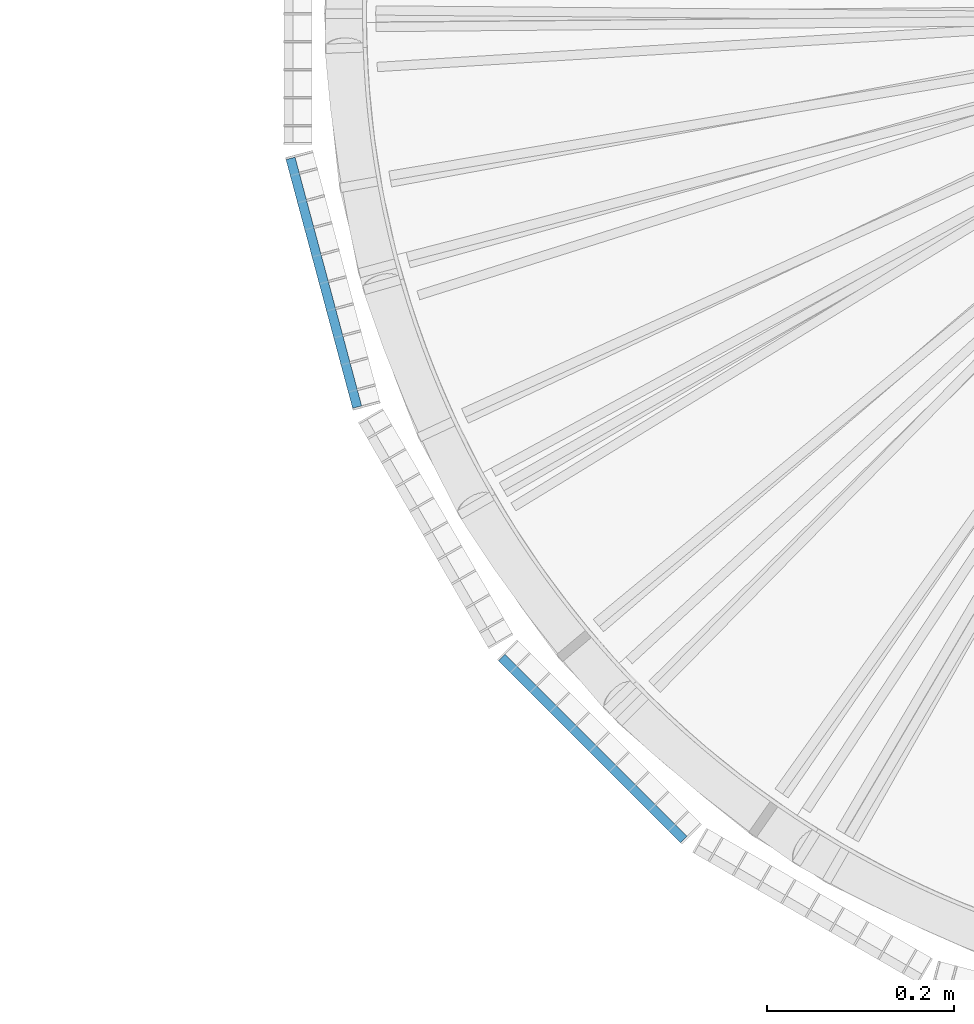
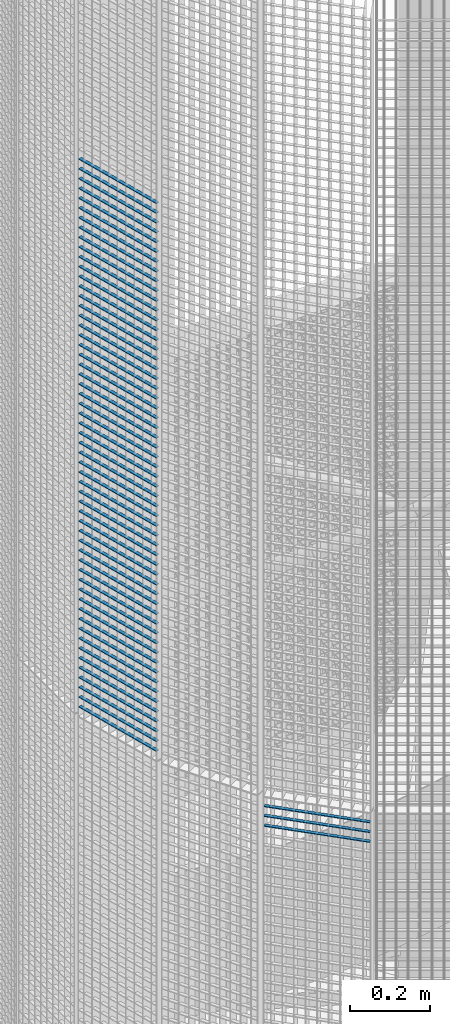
# One storey, part 107 of 1148: 60 beams, 2 elements without a shape of their own.
"""IFC2X3 building model written with IfcOpenShell, lengths in millimetres."""

from ifc_helpers import new_model, si_unit, frame, origin_with_axes, origin_2d_with_axis, place, context, subcontext, project, spatial, rectangle, extrude, material, type_object, element, aggregate, save


model = new_model("IFC2X3")

# Units and contexts
model_context = context("Model", 3, precision=1e-05, world=origin_with_axes())
body_context = subcontext(model_context, "Body", "Model", "MODEL_VIEW")
ifc_project = project(units=[si_unit("LENGTHUNIT", "METRE", prefix="MILLI"), si_unit("AREAUNIT", "SQUARE_METRE"), si_unit("VOLUMEUNIT", "CUBIC_METRE"), si_unit("MASSUNIT", "GRAM", prefix="KILO"), si_unit("TIMEUNIT", "SECOND"), si_unit("PLANEANGLEUNIT", "RADIAN"), si_unit("SOLIDANGLEUNIT", "STERADIAN"), si_unit("THERMODYNAMICTEMPERATUREUNIT", "DEGREE_CELSIUS"), si_unit("LUMINOUSINTENSITYUNIT", "LUMEN")], contexts=[model_context])

# Site, building, storey
site_placement = place(None, origin_with_axes())
site = spatial("IfcSite", under=ifc_project, at=site_placement, Name="Undefined", CompositionType="ELEMENT")
building_placement = place(site_placement, origin_with_axes())
building = spatial("IfcBuilding", under=site, at=building_placement, Name="Undefined", CompositionType="ELEMENT")
storey_placement = place(building_placement, origin_with_axes())
storey = spatial("IfcBuildingStorey", under=building, at=storey_placement, Name="Undefined", CompositionType="ELEMENT", Elevation=0.0)

# Assembly, beams
assembly_1_placement = place(storey_placement, origin_with_axes())
assembly_1 = element("IfcElementAssembly", 1, at=assembly_1_placement, inside=storey, Name="BORDURE", AssemblyPlace="NOTDEFINED", PredefinedType="NOTDEFINED")
ifc_material = material(Name="STEEL/S235JR")
beam_type = type_object("IfcBeamType", Name="PL2*10", PredefinedType="NOTDEFINED")
beam_1_placement = place(assembly_1_placement, frame((-1111.25508286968, -154.895926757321, 16710.0), z_axis=(-0.965925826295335, -0.258819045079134, 0.0), x_axis=(0.258819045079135, -0.965925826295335, 0.0)))
beam_1 = element("IfcBeam", 2, at=beam_1_placement, type_object=beam_type, material=ifc_material, Name="ENTRETOISE", context=body_context, shape_type="SweptSolid", body=[
    extrude(rectangle(XDim=2.0, YDim=10.0, at=origin_2d_with_axis()), frame((275.999999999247, 9.09494701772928e-13, 1.53210777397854e-14), z_axis=(-1.0, 0.0, 0.0), x_axis=(0.0, -1.0, 0.0)), (0.0, 0.0, 1.0), 276.0),
])
beam_2_placement = place(assembly_1_placement, frame((-1111.25508286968, -154.895926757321, 16680.0), z_axis=(-0.965925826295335, -0.258819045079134, 0.0), x_axis=(0.258819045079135, -0.965925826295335, 0.0)))
beam_2 = element("IfcBeam", 3, at=beam_2_placement, type_object=beam_type, material=ifc_material, Name="ENTRETOISE", context=body_context, shape_type="SweptSolid", body=[
    extrude(rectangle(XDim=2.0, YDim=10.0, at=origin_2d_with_axis()), frame((275.999999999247, 9.09494701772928e-13, 1.53210777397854e-14), z_axis=(-1.0, 0.0, 0.0), x_axis=(0.0, -1.0, 0.0)), (0.0, 0.0, 1.0), 276.0),
])
beam_3_placement = place(assembly_1_placement, frame((-1111.25508286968, -154.895926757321, 16650.0), z_axis=(-0.965925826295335, -0.258819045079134, 0.0), x_axis=(0.258819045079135, -0.965925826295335, 0.0)))
beam_3 = element("IfcBeam", 4, at=beam_3_placement, type_object=beam_type, material=ifc_material, Name="ENTRETOISE", context=body_context, shape_type="SweptSolid", body=[
    extrude(rectangle(XDim=2.0, YDim=10.0, at=origin_2d_with_axis()), frame((275.999999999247, 9.09494701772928e-13, 1.53210777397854e-14), z_axis=(-1.0, 0.0, 0.0), x_axis=(0.0, -1.0, 0.0)), (0.0, 0.0, 1.0), 276.0),
])
beam_4_placement = place(assembly_1_placement, frame((-1111.25508286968, -154.895926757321, 16620.0), z_axis=(-0.965925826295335, -0.258819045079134, 0.0), x_axis=(0.258819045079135, -0.965925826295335, 0.0)))
beam_4 = element("IfcBeam", 5, at=beam_4_placement, type_object=beam_type, material=ifc_material, Name="ENTRETOISE", context=body_context, shape_type="SweptSolid", body=[
    extrude(rectangle(XDim=2.0, YDim=10.0, at=origin_2d_with_axis()), frame((275.999999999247, 9.09494701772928e-13, 1.53210777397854e-14), z_axis=(-1.0, 0.0, 0.0), x_axis=(0.0, -1.0, 0.0)), (0.0, 0.0, 1.0), 276.0),
])
beam_5_placement = place(assembly_1_placement, frame((-1111.25508286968, -154.895926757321, 16590.0), z_axis=(-0.965925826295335, -0.258819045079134, 0.0), x_axis=(0.258819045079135, -0.965925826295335, 0.0)))
beam_5 = element("IfcBeam", 6, at=beam_5_placement, type_object=beam_type, material=ifc_material, Name="ENTRETOISE", context=body_context, shape_type="SweptSolid", body=[
    extrude(rectangle(XDim=2.0, YDim=10.0, at=origin_2d_with_axis()), frame((275.999999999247, 9.09494701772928e-13, 1.53210777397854e-14), z_axis=(-1.0, 0.0, 0.0), x_axis=(0.0, -1.0, 0.0)), (0.0, 0.0, 1.0), 276.0),
])
beam_6_placement = place(assembly_1_placement, frame((-1111.25508286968, -154.895926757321, 16560.0), z_axis=(-0.965925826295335, -0.258819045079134, 0.0), x_axis=(0.258819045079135, -0.965925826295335, 0.0)))
beam_6 = element("IfcBeam", 7, at=beam_6_placement, type_object=beam_type, material=ifc_material, Name="ENTRETOISE", context=body_context, shape_type="SweptSolid", body=[
    extrude(rectangle(XDim=2.0, YDim=10.0, at=origin_2d_with_axis()), frame((275.999999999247, 9.09494701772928e-13, 1.53210777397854e-14), z_axis=(-1.0, 0.0, 0.0), x_axis=(0.0, -1.0, 0.0)), (0.0, 0.0, 1.0), 276.0),
])
beam_7_placement = place(assembly_1_placement, frame((-1111.25508286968, -154.895926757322, 16530.0), z_axis=(-0.965925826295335, -0.258819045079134, 0.0), x_axis=(0.258819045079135, -0.965925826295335, 0.0)))
beam_7 = element("IfcBeam", 8, at=beam_7_placement, type_object=beam_type, material=ifc_material, Name="ENTRETOISE", context=body_context, shape_type="SweptSolid", body=[
    extrude(rectangle(XDim=2.0, YDim=10.0, at=origin_2d_with_axis()), frame((275.999999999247, 9.09494701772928e-13, 1.53210777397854e-14), z_axis=(-1.0, 0.0, 0.0), x_axis=(0.0, -1.0, 0.0)), (0.0, 0.0, 1.0), 276.0),
])
beam_8_placement = place(assembly_1_placement, frame((-1111.25508286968, -154.895926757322, 16500.0), z_axis=(-0.965925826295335, -0.258819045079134, 0.0), x_axis=(0.258819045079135, -0.965925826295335, 0.0)))
beam_8 = element("IfcBeam", 9, at=beam_8_placement, type_object=beam_type, material=ifc_material, Name="ENTRETOISE", context=body_context, shape_type="SweptSolid", body=[
    extrude(rectangle(XDim=2.0, YDim=10.0, at=origin_2d_with_axis()), frame((275.999999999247, 9.09494701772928e-13, 1.53210777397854e-14), z_axis=(-1.0, 0.0, 0.0), x_axis=(0.0, -1.0, 0.0)), (0.0, 0.0, 1.0), 276.0),
])
beam_9_placement = place(assembly_1_placement, frame((-1111.25508286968, -154.895926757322, 16470.0), z_axis=(-0.965925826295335, -0.258819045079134, 0.0), x_axis=(0.258819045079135, -0.965925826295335, 0.0)))
beam_9 = element("IfcBeam", 10, at=beam_9_placement, type_object=beam_type, material=ifc_material, Name="ENTRETOISE", context=body_context, shape_type="SweptSolid", body=[
    extrude(rectangle(XDim=2.0, YDim=10.0, at=origin_2d_with_axis()), frame((275.999999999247, 9.09494701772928e-13, 1.53210777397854e-14), z_axis=(-1.0, 0.0, 0.0), x_axis=(0.0, -1.0, 0.0)), (0.0, 0.0, 1.0), 276.0),
])
beam_10_placement = place(assembly_1_placement, frame((-1111.25508286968, -154.895926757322, 16440.0), z_axis=(-0.965925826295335, -0.258819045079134, 0.0), x_axis=(0.258819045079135, -0.965925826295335, 0.0)))
beam_10 = element("IfcBeam", 11, at=beam_10_placement, type_object=beam_type, material=ifc_material, Name="ENTRETOISE", context=body_context, shape_type="SweptSolid", body=[
    extrude(rectangle(XDim=2.0, YDim=10.0, at=origin_2d_with_axis()), frame((275.999999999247, 9.09494701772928e-13, 1.53210777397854e-14), z_axis=(-1.0, 0.0, 0.0), x_axis=(0.0, -1.0, 0.0)), (0.0, 0.0, 1.0), 276.0),
])
beam_11_placement = place(assembly_1_placement, frame((-1111.25508286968, -154.895926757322, 16410.0), z_axis=(-0.965925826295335, -0.258819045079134, 0.0), x_axis=(0.258819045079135, -0.965925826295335, 0.0)))
beam_11 = element("IfcBeam", 12, at=beam_11_placement, type_object=beam_type, material=ifc_material, Name="ENTRETOISE", context=body_context, shape_type="SweptSolid", body=[
    extrude(rectangle(XDim=2.0, YDim=10.0, at=origin_2d_with_axis()), frame((275.999999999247, 9.09494701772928e-13, 1.53210777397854e-14), z_axis=(-1.0, 0.0, 0.0), x_axis=(0.0, -1.0, 0.0)), (0.0, 0.0, 1.0), 276.0),
])
beam_12_placement = place(assembly_1_placement, frame((-1111.25508286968, -154.895926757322, 16380.0), z_axis=(-0.965925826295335, -0.258819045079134, 0.0), x_axis=(0.258819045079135, -0.965925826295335, 0.0)))
beam_12 = element("IfcBeam", 13, at=beam_12_placement, type_object=beam_type, material=ifc_material, Name="ENTRETOISE", context=body_context, shape_type="SweptSolid", body=[
    extrude(rectangle(XDim=2.0, YDim=10.0, at=origin_2d_with_axis()), frame((275.999999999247, 9.09494701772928e-13, 1.53210777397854e-14), z_axis=(-1.0, 0.0, 0.0), x_axis=(0.0, -1.0, 0.0)), (0.0, 0.0, 1.0), 276.0),
])
beam_13_placement = place(assembly_1_placement, frame((-1111.25508286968, -154.895926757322, 16350.0), z_axis=(-0.965925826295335, -0.258819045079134, 0.0), x_axis=(0.258819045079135, -0.965925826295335, 0.0)))
beam_13 = element("IfcBeam", 14, at=beam_13_placement, type_object=beam_type, material=ifc_material, Name="ENTRETOISE", context=body_context, shape_type="SweptSolid", body=[
    extrude(rectangle(XDim=2.0, YDim=10.0, at=origin_2d_with_axis()), frame((275.999999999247, 9.09494701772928e-13, 1.53210777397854e-14), z_axis=(-1.0, 0.0, 0.0), x_axis=(0.0, -1.0, 0.0)), (0.0, 0.0, 1.0), 276.0),
])
beam_14_placement = place(assembly_1_placement, frame((-1111.25508286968, -154.895926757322, 16320.0), z_axis=(-0.965925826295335, -0.258819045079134, 0.0), x_axis=(0.258819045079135, -0.965925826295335, 0.0)))
beam_14 = element("IfcBeam", 15, at=beam_14_placement, type_object=beam_type, material=ifc_material, Name="ENTRETOISE", context=body_context, shape_type="SweptSolid", body=[
    extrude(rectangle(XDim=2.0, YDim=10.0, at=origin_2d_with_axis()), frame((275.999999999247, 9.09494701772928e-13, 1.53210777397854e-14), z_axis=(-1.0, 0.0, 0.0), x_axis=(0.0, -1.0, 0.0)), (0.0, 0.0, 1.0), 276.0),
])
beam_15_placement = place(assembly_1_placement, frame((-1111.25508286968, -154.895926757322, 16290.0), z_axis=(-0.965925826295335, -0.258819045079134, 0.0), x_axis=(0.258819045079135, -0.965925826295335, 0.0)))
beam_15 = element("IfcBeam", 16, at=beam_15_placement, type_object=beam_type, material=ifc_material, Name="ENTRETOISE", context=body_context, shape_type="SweptSolid", body=[
    extrude(rectangle(XDim=2.0, YDim=10.0, at=origin_2d_with_axis()), frame((275.999999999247, 9.09494701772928e-13, 1.53210777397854e-14), z_axis=(-1.0, 0.0, 0.0), x_axis=(0.0, -1.0, 0.0)), (0.0, 0.0, 1.0), 276.0),
])
beam_16_placement = place(assembly_1_placement, frame((-1111.25508286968, -154.895926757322, 16260.0), z_axis=(-0.965925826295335, -0.258819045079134, 0.0), x_axis=(0.258819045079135, -0.965925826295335, 0.0)))
beam_16 = element("IfcBeam", 17, at=beam_16_placement, type_object=beam_type, material=ifc_material, Name="ENTRETOISE", context=body_context, shape_type="SweptSolid", body=[
    extrude(rectangle(XDim=2.0, YDim=10.0, at=origin_2d_with_axis()), frame((275.999999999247, 9.09494701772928e-13, 1.53210777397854e-14), z_axis=(-1.0, 0.0, 0.0), x_axis=(0.0, -1.0, 0.0)), (0.0, 0.0, 1.0), 276.0),
])
beam_17_placement = place(assembly_1_placement, frame((-1111.25508286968, -154.895926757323, 16230.0), z_axis=(-0.965925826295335, -0.258819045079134, 0.0), x_axis=(0.258819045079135, -0.965925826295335, 0.0)))
beam_17 = element("IfcBeam", 18, at=beam_17_placement, type_object=beam_type, material=ifc_material, Name="ENTRETOISE", context=body_context, shape_type="SweptSolid", body=[
    extrude(rectangle(XDim=2.0, YDim=10.0, at=origin_2d_with_axis()), frame((275.999999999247, 9.09494701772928e-13, 1.53210777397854e-14), z_axis=(-1.0, 0.0, 0.0), x_axis=(0.0, -1.0, 0.0)), (0.0, 0.0, 1.0), 276.0),
])
beam_18_placement = place(assembly_1_placement, frame((-1111.25508286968, -154.895926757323, 16200.0), z_axis=(-0.965925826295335, -0.258819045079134, 0.0), x_axis=(0.258819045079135, -0.965925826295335, 0.0)))
beam_18 = element("IfcBeam", 19, at=beam_18_placement, type_object=beam_type, material=ifc_material, Name="ENTRETOISE", context=body_context, shape_type="SweptSolid", body=[
    extrude(rectangle(XDim=2.0, YDim=10.0, at=origin_2d_with_axis()), frame((275.999999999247, 9.09494701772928e-13, 1.53210777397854e-14), z_axis=(-1.0, 0.0, 0.0), x_axis=(0.0, -1.0, 0.0)), (0.0, 0.0, 1.0), 276.0),
])
beam_19_placement = place(assembly_1_placement, frame((-1111.25508286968, -154.895926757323, 16170.0), z_axis=(-0.965925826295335, -0.258819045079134, 0.0), x_axis=(0.258819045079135, -0.965925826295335, 0.0)))
beam_19 = element("IfcBeam", 20, at=beam_19_placement, type_object=beam_type, material=ifc_material, Name="ENTRETOISE", context=body_context, shape_type="SweptSolid", body=[
    extrude(rectangle(XDim=2.0, YDim=10.0, at=origin_2d_with_axis()), frame((275.999999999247, 9.09494701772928e-13, 1.53210777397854e-14), z_axis=(-1.0, 0.0, 0.0), x_axis=(0.0, -1.0, 0.0)), (0.0, 0.0, 1.0), 276.0),
])
beam_20_placement = place(assembly_1_placement, frame((-1111.25508286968, -154.895926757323, 16140.0), z_axis=(-0.965925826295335, -0.258819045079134, 0.0), x_axis=(0.258819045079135, -0.965925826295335, 0.0)))
beam_20 = element("IfcBeam", 21, at=beam_20_placement, type_object=beam_type, material=ifc_material, Name="ENTRETOISE", context=body_context, shape_type="SweptSolid", body=[
    extrude(rectangle(XDim=2.0, YDim=10.0, at=origin_2d_with_axis()), frame((275.999999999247, 9.09494701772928e-13, 1.53210777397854e-14), z_axis=(-1.0, 0.0, 0.0), x_axis=(0.0, -1.0, 0.0)), (0.0, 0.0, 1.0), 276.0),
])
beam_21_placement = place(assembly_1_placement, frame((-1111.25508286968, -154.895926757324, 15720.0), z_axis=(-0.965925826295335, -0.258819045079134, 0.0), x_axis=(0.258819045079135, -0.965925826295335, 0.0)))
beam_21 = element("IfcBeam", 22, at=beam_21_placement, type_object=beam_type, material=ifc_material, Name="ENTRETOISE", context=body_context, shape_type="SweptSolid", body=[
    extrude(rectangle(XDim=2.0, YDim=10.0, at=origin_2d_with_axis()), frame((275.999999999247, 9.09494701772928e-13, 1.53210777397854e-14), z_axis=(-1.0, 0.0, 0.0), x_axis=(0.0, -1.0, 0.0)), (0.0, 0.0, 1.0), 276.0),
])
beam_22_placement = place(assembly_1_placement, frame((-1111.25508286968, -154.895926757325, 15690.0), z_axis=(-0.965925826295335, -0.258819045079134, 0.0), x_axis=(0.258819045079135, -0.965925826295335, 0.0)))
beam_22 = element("IfcBeam", 23, at=beam_22_placement, type_object=beam_type, material=ifc_material, Name="ENTRETOISE", context=body_context, shape_type="SweptSolid", body=[
    extrude(rectangle(XDim=2.0, YDim=10.0, at=origin_2d_with_axis()), frame((275.999999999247, 9.09494701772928e-13, 1.53210777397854e-14), z_axis=(-1.0, 0.0, 0.0), x_axis=(0.0, -1.0, 0.0)), (0.0, 0.0, 1.0), 276.0),
])
beam_23_placement = place(assembly_1_placement, frame((-1111.25508286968, -154.895926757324, 15750.0), z_axis=(-0.965925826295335, -0.258819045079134, 0.0), x_axis=(0.258819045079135, -0.965925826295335, 0.0)))
beam_23 = element("IfcBeam", 24, at=beam_23_placement, type_object=beam_type, material=ifc_material, Name="ENTRETOISE", context=body_context, shape_type="SweptSolid", body=[
    extrude(rectangle(XDim=2.0, YDim=10.0, at=origin_2d_with_axis()), frame((275.999999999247, 9.09494701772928e-13, 1.53210777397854e-14), z_axis=(-1.0, 0.0, 0.0), x_axis=(0.0, -1.0, 0.0)), (0.0, 0.0, 1.0), 276.0),
])
beam_24_placement = place(assembly_1_placement, frame((-1111.25508286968, -154.895926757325, 15660.0), z_axis=(-0.965925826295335, -0.258819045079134, 0.0), x_axis=(0.258819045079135, -0.965925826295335, 0.0)))
beam_24 = element("IfcBeam", 25, at=beam_24_placement, type_object=beam_type, material=ifc_material, Name="ENTRETOISE", context=body_context, shape_type="SweptSolid", body=[
    extrude(rectangle(XDim=2.0, YDim=10.0, at=origin_2d_with_axis()), frame((275.999999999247, 9.09494701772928e-13, 1.53210777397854e-14), z_axis=(-1.0, 0.0, 0.0), x_axis=(0.0, -1.0, 0.0)), (0.0, 0.0, 1.0), 276.0),
])
beam_25_placement = place(assembly_1_placement, frame((-1111.25508286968, -154.895926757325, 15630.0), z_axis=(-0.965925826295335, -0.258819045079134, 0.0), x_axis=(0.258819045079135, -0.965925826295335, 0.0)))
beam_25 = element("IfcBeam", 26, at=beam_25_placement, type_object=beam_type, material=ifc_material, Name="ENTRETOISE", context=body_context, shape_type="SweptSolid", body=[
    extrude(rectangle(XDim=2.0, YDim=10.0, at=origin_2d_with_axis()), frame((275.999999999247, 9.09494701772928e-13, 1.53210777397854e-14), z_axis=(-1.0, 0.0, 0.0), x_axis=(0.0, -1.0, 0.0)), (0.0, 0.0, 1.0), 276.0),
])
beam_26_placement = place(assembly_1_placement, frame((-1111.25508286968, -154.895926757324, 15780.0), z_axis=(-0.965925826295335, -0.258819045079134, 0.0), x_axis=(0.258819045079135, -0.965925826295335, 0.0)))
beam_26 = element("IfcBeam", 27, at=beam_26_placement, type_object=beam_type, material=ifc_material, Name="ENTRETOISE", context=body_context, shape_type="SweptSolid", body=[
    extrude(rectangle(XDim=2.0, YDim=10.0, at=origin_2d_with_axis()), frame((275.999999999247, 9.09494701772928e-13, 1.53210777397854e-14), z_axis=(-1.0, 0.0, 0.0), x_axis=(0.0, -1.0, 0.0)), (0.0, 0.0, 1.0), 276.0),
])
beam_27_placement = place(assembly_1_placement, frame((-1111.25508286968, -154.895926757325, 15600.0), z_axis=(-0.965925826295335, -0.258819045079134, 0.0), x_axis=(0.258819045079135, -0.965925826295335, 0.0)))
beam_27 = element("IfcBeam", 28, at=beam_27_placement, type_object=beam_type, material=ifc_material, Name="ENTRETOISE", context=body_context, shape_type="SweptSolid", body=[
    extrude(rectangle(XDim=2.0, YDim=10.0, at=origin_2d_with_axis()), frame((275.999999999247, 9.09494701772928e-13, 1.53210777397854e-14), z_axis=(-1.0, 0.0, 0.0), x_axis=(0.0, -1.0, 0.0)), (0.0, 0.0, 1.0), 276.0),
])
beam_28_placement = place(assembly_1_placement, frame((-1111.25508286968, -154.895926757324, 15810.0), z_axis=(-0.965925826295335, -0.258819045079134, 0.0), x_axis=(0.258819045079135, -0.965925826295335, 0.0)))
beam_28 = element("IfcBeam", 29, at=beam_28_placement, type_object=beam_type, material=ifc_material, Name="ENTRETOISE", context=body_context, shape_type="SweptSolid", body=[
    extrude(rectangle(XDim=2.0, YDim=10.0, at=origin_2d_with_axis()), frame((275.999999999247, 9.09494701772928e-13, 1.53210777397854e-14), z_axis=(-1.0, 0.0, 0.0), x_axis=(0.0, -1.0, 0.0)), (0.0, 0.0, 1.0), 276.0),
])
beam_29_placement = place(assembly_1_placement, frame((-1111.25508286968, -154.895926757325, 15570.0), z_axis=(-0.965925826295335, -0.258819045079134, 0.0), x_axis=(0.258819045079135, -0.965925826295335, 0.0)))
beam_29 = element("IfcBeam", 30, at=beam_29_placement, type_object=beam_type, material=ifc_material, Name="ENTRETOISE", context=body_context, shape_type="SweptSolid", body=[
    extrude(rectangle(XDim=2.0, YDim=10.0, at=origin_2d_with_axis()), frame((275.999999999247, 9.09494701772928e-13, 1.53210777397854e-14), z_axis=(-1.0, 0.0, 0.0), x_axis=(0.0, -1.0, 0.0)), (0.0, 0.0, 1.0), 276.0),
])
beam_30_placement = place(assembly_1_placement, frame((-1111.25508286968, -154.895926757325, 15540.0), z_axis=(-0.965925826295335, -0.258819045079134, 0.0), x_axis=(0.258819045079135, -0.965925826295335, 0.0)))
beam_30 = element("IfcBeam", 31, at=beam_30_placement, type_object=beam_type, material=ifc_material, Name="ENTRETOISE", context=body_context, shape_type="SweptSolid", body=[
    extrude(rectangle(XDim=2.0, YDim=10.0, at=origin_2d_with_axis()), frame((275.999999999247, 9.09494701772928e-13, 1.53210777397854e-14), z_axis=(-1.0, 0.0, 0.0), x_axis=(0.0, -1.0, 0.0)), (0.0, 0.0, 1.0), 276.0),
])
beam_31_placement = place(assembly_1_placement, frame((-1111.25508286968, -154.895926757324, 15840.0), z_axis=(-0.965925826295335, -0.258819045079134, 0.0), x_axis=(0.258819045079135, -0.965925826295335, 0.0)))
beam_31 = element("IfcBeam", 32, at=beam_31_placement, type_object=beam_type, material=ifc_material, Name="ENTRETOISE", context=body_context, shape_type="SweptSolid", body=[
    extrude(rectangle(XDim=2.0, YDim=10.0, at=origin_2d_with_axis()), frame((275.999999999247, 9.09494701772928e-13, 1.53210777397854e-14), z_axis=(-1.0, 0.0, 0.0), x_axis=(0.0, -1.0, 0.0)), (0.0, 0.0, 1.0), 276.0),
])
beam_32_placement = place(assembly_1_placement, frame((-1111.25508286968, -154.895926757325, 15510.0), z_axis=(-0.965925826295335, -0.258819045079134, 0.0), x_axis=(0.258819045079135, -0.965925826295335, 0.0)))
beam_32 = element("IfcBeam", 33, at=beam_32_placement, type_object=beam_type, material=ifc_material, Name="ENTRETOISE", context=body_context, shape_type="SweptSolid", body=[
    extrude(rectangle(XDim=2.0, YDim=10.0, at=origin_2d_with_axis()), frame((275.999999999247, 9.09494701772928e-13, 1.53210777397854e-14), z_axis=(-1.0, 0.0, 0.0), x_axis=(0.0, -1.0, 0.0)), (0.0, 0.0, 1.0), 276.0),
])
beam_33_placement = place(assembly_1_placement, frame((-1111.25508286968, -154.895926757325, 15480.0), z_axis=(-0.965925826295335, -0.258819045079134, 0.0), x_axis=(0.258819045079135, -0.965925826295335, 0.0)))
beam_33 = element("IfcBeam", 34, at=beam_33_placement, type_object=beam_type, material=ifc_material, Name="ENTRETOISE", context=body_context, shape_type="SweptSolid", body=[
    extrude(rectangle(XDim=2.0, YDim=10.0, at=origin_2d_with_axis()), frame((275.999999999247, 9.09494701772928e-13, 1.53210777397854e-14), z_axis=(-1.0, 0.0, 0.0), x_axis=(0.0, -1.0, 0.0)), (0.0, 0.0, 1.0), 276.0),
])
beam_34_placement = place(assembly_1_placement, frame((-1111.25508286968, -154.895926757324, 15870.0), z_axis=(-0.965925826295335, -0.258819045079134, 0.0), x_axis=(0.258819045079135, -0.965925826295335, 0.0)))
beam_34 = element("IfcBeam", 35, at=beam_34_placement, type_object=beam_type, material=ifc_material, Name="ENTRETOISE", context=body_context, shape_type="SweptSolid", body=[
    extrude(rectangle(XDim=2.0, YDim=10.0, at=origin_2d_with_axis()), frame((275.999999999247, 9.09494701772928e-13, 1.53210777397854e-14), z_axis=(-1.0, 0.0, 0.0), x_axis=(0.0, -1.0, 0.0)), (0.0, 0.0, 1.0), 276.0),
])
beam_35_placement = place(assembly_1_placement, frame((-1111.25508286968, -154.895926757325, 15450.0), z_axis=(-0.965925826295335, -0.258819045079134, 0.0), x_axis=(0.258819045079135, -0.965925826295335, 0.0)))
beam_35 = element("IfcBeam", 36, at=beam_35_placement, type_object=beam_type, material=ifc_material, Name="ENTRETOISE", context=body_context, shape_type="SweptSolid", body=[
    extrude(rectangle(XDim=2.0, YDim=10.0, at=origin_2d_with_axis()), frame((275.999999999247, 9.09494701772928e-13, 1.53210777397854e-14), z_axis=(-1.0, 0.0, 0.0), x_axis=(0.0, -1.0, 0.0)), (0.0, 0.0, 1.0), 276.0),
])
beam_36_placement = place(assembly_1_placement, frame((-1111.25508286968, -154.895926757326, 15420.0), z_axis=(-0.965925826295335, -0.258819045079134, 0.0), x_axis=(0.258819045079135, -0.965925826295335, 0.0)))
beam_36 = element("IfcBeam", 37, at=beam_36_placement, type_object=beam_type, material=ifc_material, Name="ENTRETOISE", context=body_context, shape_type="SweptSolid", body=[
    extrude(rectangle(XDim=2.0, YDim=10.0, at=origin_2d_with_axis()), frame((275.999999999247, 9.09494701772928e-13, 1.53210777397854e-14), z_axis=(-1.0, 0.0, 0.0), x_axis=(0.0, -1.0, 0.0)), (0.0, 0.0, 1.0), 276.0),
])
beam_37_placement = place(assembly_1_placement, frame((-1111.25508286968, -154.895926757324, 15900.0), z_axis=(-0.965925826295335, -0.258819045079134, 0.0), x_axis=(0.258819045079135, -0.965925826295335, 0.0)))
beam_37 = element("IfcBeam", 38, at=beam_37_placement, type_object=beam_type, material=ifc_material, Name="ENTRETOISE", context=body_context, shape_type="SweptSolid", body=[
    extrude(rectangle(XDim=2.0, YDim=10.0, at=origin_2d_with_axis()), frame((275.999999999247, 9.09494701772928e-13, 1.53210777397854e-14), z_axis=(-1.0, 0.0, 0.0), x_axis=(0.0, -1.0, 0.0)), (0.0, 0.0, 1.0), 276.0),
])
beam_38_placement = place(assembly_1_placement, frame((-1111.25508286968, -154.895926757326, 15390.0), z_axis=(-0.965925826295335, -0.258819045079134, 0.0), x_axis=(0.258819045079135, -0.965925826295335, 0.0)))
beam_38 = element("IfcBeam", 39, at=beam_38_placement, type_object=beam_type, material=ifc_material, Name="ENTRETOISE", context=body_context, shape_type="SweptSolid", body=[
    extrude(rectangle(XDim=2.0, YDim=10.0, at=origin_2d_with_axis()), frame((275.999999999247, 9.09494701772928e-13, 1.53210777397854e-14), z_axis=(-1.0, 0.0, 0.0), x_axis=(0.0, -1.0, 0.0)), (0.0, 0.0, 1.0), 276.0),
])
beam_39_placement = place(assembly_1_placement, frame((-1111.25508286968, -154.895926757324, 15930.0), z_axis=(-0.965925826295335, -0.258819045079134, 0.0), x_axis=(0.258819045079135, -0.965925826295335, 0.0)))
beam_39 = element("IfcBeam", 40, at=beam_39_placement, type_object=beam_type, material=ifc_material, Name="ENTRETOISE", context=body_context, shape_type="SweptSolid", body=[
    extrude(rectangle(XDim=2.0, YDim=10.0, at=origin_2d_with_axis()), frame((275.999999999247, 9.09494701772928e-13, 1.53210777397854e-14), z_axis=(-1.0, 0.0, 0.0), x_axis=(0.0, -1.0, 0.0)), (0.0, 0.0, 1.0), 276.0),
])
beam_40_placement = place(assembly_1_placement, frame((-1111.25508286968, -154.895926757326, 15360.0), z_axis=(-0.965925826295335, -0.258819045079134, 0.0), x_axis=(0.258819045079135, -0.965925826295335, 0.0)))
beam_40 = element("IfcBeam", 41, at=beam_40_placement, type_object=beam_type, material=ifc_material, Name="ENTRETOISE", context=body_context, shape_type="SweptSolid", body=[
    extrude(rectangle(XDim=2.0, YDim=10.0, at=origin_2d_with_axis()), frame((275.999999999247, 9.09494701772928e-13, 1.53210777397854e-14), z_axis=(-1.0, 0.0, 0.0), x_axis=(0.0, -1.0, 0.0)), (0.0, 0.0, 1.0), 276.0),
])
beam_41_placement = place(assembly_1_placement, frame((-1111.25508286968, -154.895926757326, 15330.0), z_axis=(-0.965925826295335, -0.258819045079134, 0.0), x_axis=(0.258819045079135, -0.965925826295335, 0.0)))
beam_41 = element("IfcBeam", 42, at=beam_41_placement, type_object=beam_type, material=ifc_material, Name="ENTRETOISE", context=body_context, shape_type="SweptSolid", body=[
    extrude(rectangle(XDim=2.0, YDim=10.0, at=origin_2d_with_axis()), frame((275.999999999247, 9.09494701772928e-13, 1.53210777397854e-14), z_axis=(-1.0, 0.0, 0.0), x_axis=(0.0, -1.0, 0.0)), (0.0, 0.0, 1.0), 276.0),
])
beam_42_placement = place(assembly_1_placement, frame((-1111.25508286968, -154.895926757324, 15960.0), z_axis=(-0.965925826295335, -0.258819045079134, 0.0), x_axis=(0.258819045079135, -0.965925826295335, 0.0)))
beam_42 = element("IfcBeam", 43, at=beam_42_placement, type_object=beam_type, material=ifc_material, Name="ENTRETOISE", context=body_context, shape_type="SweptSolid", body=[
    extrude(rectangle(XDim=2.0, YDim=10.0, at=origin_2d_with_axis()), frame((275.999999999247, 9.09494701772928e-13, 1.53210777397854e-14), z_axis=(-1.0, 0.0, 0.0), x_axis=(0.0, -1.0, 0.0)), (0.0, 0.0, 1.0), 276.0),
])
beam_43_placement = place(assembly_1_placement, frame((-1111.25508286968, -154.895926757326, 15300.0), z_axis=(-0.965925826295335, -0.258819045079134, 0.0), x_axis=(0.258819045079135, -0.965925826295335, 0.0)))
beam_43 = element("IfcBeam", 44, at=beam_43_placement, type_object=beam_type, material=ifc_material, Name="ENTRETOISE", context=body_context, shape_type="SweptSolid", body=[
    extrude(rectangle(XDim=2.0, YDim=10.0, at=origin_2d_with_axis()), frame((275.999999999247, 9.09494701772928e-13, 1.53210777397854e-14), z_axis=(-1.0, 0.0, 0.0), x_axis=(0.0, -1.0, 0.0)), (0.0, 0.0, 1.0), 276.0),
])
beam_44_placement = place(assembly_1_placement, frame((-1111.25508286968, -154.895926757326, 15270.0), z_axis=(-0.965925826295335, -0.258819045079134, 0.0), x_axis=(0.258819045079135, -0.965925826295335, 0.0)))
beam_44 = element("IfcBeam", 45, at=beam_44_placement, type_object=beam_type, material=ifc_material, Name="ENTRETOISE", context=body_context, shape_type="SweptSolid", body=[
    extrude(rectangle(XDim=2.0, YDim=10.0, at=origin_2d_with_axis()), frame((275.999999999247, 9.09494701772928e-13, 1.53210777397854e-14), z_axis=(-1.0, 0.0, 0.0), x_axis=(0.0, -1.0, 0.0)), (0.0, 0.0, 1.0), 276.0),
])
beam_45_placement = place(assembly_1_placement, frame((-1111.25508286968, -154.895926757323, 15990.0), z_axis=(-0.965925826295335, -0.258819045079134, 0.0), x_axis=(0.258819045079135, -0.965925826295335, 0.0)))
beam_45 = element("IfcBeam", 46, at=beam_45_placement, type_object=beam_type, material=ifc_material, Name="ENTRETOISE", context=body_context, shape_type="SweptSolid", body=[
    extrude(rectangle(XDim=2.0, YDim=10.0, at=origin_2d_with_axis()), frame((275.999999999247, 9.09494701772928e-13, 1.53210777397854e-14), z_axis=(-1.0, 0.0, 0.0), x_axis=(0.0, -1.0, 0.0)), (0.0, 0.0, 1.0), 276.0),
])
beam_46_placement = place(assembly_1_placement, frame((-1111.25508286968, -154.895926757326, 15240.0), z_axis=(-0.965925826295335, -0.258819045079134, 0.0), x_axis=(0.258819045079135, -0.965925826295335, 0.0)))
beam_46 = element("IfcBeam", 47, at=beam_46_placement, type_object=beam_type, material=ifc_material, Name="ENTRETOISE", context=body_context, shape_type="SweptSolid", body=[
    extrude(rectangle(XDim=2.0, YDim=10.0, at=origin_2d_with_axis()), frame((275.999999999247, 9.09494701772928e-13, 1.53210777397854e-14), z_axis=(-1.0, 0.0, 0.0), x_axis=(0.0, -1.0, 0.0)), (0.0, 0.0, 1.0), 276.0),
])
beam_47_placement = place(assembly_1_placement, frame((-1111.25508286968, -154.895926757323, 16020.0), z_axis=(-0.965925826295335, -0.258819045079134, 0.0), x_axis=(0.258819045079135, -0.965925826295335, 0.0)))
beam_47 = element("IfcBeam", 48, at=beam_47_placement, type_object=beam_type, material=ifc_material, Name="ENTRETOISE", context=body_context, shape_type="SweptSolid", body=[
    extrude(rectangle(XDim=2.0, YDim=10.0, at=origin_2d_with_axis()), frame((275.999999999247, 9.09494701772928e-13, 1.53210777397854e-14), z_axis=(-1.0, 0.0, 0.0), x_axis=(0.0, -1.0, 0.0)), (0.0, 0.0, 1.0), 276.0),
])
beam_48_placement = place(assembly_1_placement, frame((-1111.25508286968, -154.895926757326, 15210.0), z_axis=(-0.965925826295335, -0.258819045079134, 0.0), x_axis=(0.258819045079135, -0.965925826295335, 0.0)))
beam_48 = element("IfcBeam", 49, at=beam_48_placement, type_object=beam_type, material=ifc_material, Name="ENTRETOISE", context=body_context, shape_type="SweptSolid", body=[
    extrude(rectangle(XDim=2.0, YDim=10.0, at=origin_2d_with_axis()), frame((275.999999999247, 9.09494701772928e-13, 1.53210777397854e-14), z_axis=(-1.0, 0.0, 0.0), x_axis=(0.0, -1.0, 0.0)), (0.0, 0.0, 1.0), 276.0),
])
beam_49_placement = place(assembly_1_placement, frame((-1111.25508286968, -154.895926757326, 15180.0), z_axis=(-0.965925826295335, -0.258819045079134, 0.0), x_axis=(0.258819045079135, -0.965925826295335, 0.0)))
beam_49 = element("IfcBeam", 50, at=beam_49_placement, type_object=beam_type, material=ifc_material, Name="ENTRETOISE", context=body_context, shape_type="SweptSolid", body=[
    extrude(rectangle(XDim=2.0, YDim=10.0, at=origin_2d_with_axis()), frame((275.999999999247, 9.09494701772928e-13, 1.53210777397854e-14), z_axis=(-1.0, 0.0, 0.0), x_axis=(0.0, -1.0, 0.0)), (0.0, 0.0, 1.0), 276.0),
])
beam_50_placement = place(assembly_1_placement, frame((-1111.25508286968, -154.895926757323, 16050.0), z_axis=(-0.965925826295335, -0.258819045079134, 0.0), x_axis=(0.258819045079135, -0.965925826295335, 0.0)))
beam_50 = element("IfcBeam", 51, at=beam_50_placement, type_object=beam_type, material=ifc_material, Name="ENTRETOISE", context=body_context, shape_type="SweptSolid", body=[
    extrude(rectangle(XDim=2.0, YDim=10.0, at=origin_2d_with_axis()), frame((275.999999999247, 9.09494701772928e-13, 1.53210777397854e-14), z_axis=(-1.0, 0.0, 0.0), x_axis=(0.0, -1.0, 0.0)), (0.0, 0.0, 1.0), 276.0),
])
beam_51_placement = place(assembly_1_placement, frame((-1111.25508286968, -154.895926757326, 15150.0), z_axis=(-0.965925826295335, -0.258819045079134, 0.0), x_axis=(0.258819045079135, -0.965925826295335, 0.0)))
beam_51 = element("IfcBeam", 52, at=beam_51_placement, type_object=beam_type, material=ifc_material, Name="ENTRETOISE", context=body_context, shape_type="SweptSolid", body=[
    extrude(rectangle(XDim=2.0, YDim=10.0, at=origin_2d_with_axis()), frame((275.999999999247, 9.09494701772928e-13, 1.53210777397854e-14), z_axis=(-1.0, 0.0, 0.0), x_axis=(0.0, -1.0, 0.0)), (0.0, 0.0, 1.0), 276.0),
])
beam_52_placement = place(assembly_1_placement, frame((-1111.25508286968, -154.895926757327, 15120.0), z_axis=(-0.965925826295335, -0.258819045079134, 0.0), x_axis=(0.258819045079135, -0.965925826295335, 0.0)))
beam_52 = element("IfcBeam", 53, at=beam_52_placement, type_object=beam_type, material=ifc_material, Name="ENTRETOISE", context=body_context, shape_type="SweptSolid", body=[
    extrude(rectangle(XDim=2.0, YDim=10.0, at=origin_2d_with_axis()), frame((275.999999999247, 9.09494701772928e-13, 1.53210777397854e-14), z_axis=(-1.0, 0.0, 0.0), x_axis=(0.0, -1.0, 0.0)), (0.0, 0.0, 1.0), 276.0),
])
beam_53_placement = place(assembly_1_placement, frame((-1111.25508286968, -154.895926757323, 16080.0), z_axis=(-0.965925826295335, -0.258819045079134, 0.0), x_axis=(0.258819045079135, -0.965925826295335, 0.0)))
beam_53 = element("IfcBeam", 54, at=beam_53_placement, type_object=beam_type, material=ifc_material, Name="ENTRETOISE", context=body_context, shape_type="SweptSolid", body=[
    extrude(rectangle(XDim=2.0, YDim=10.0, at=origin_2d_with_axis()), frame((275.999999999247, 9.09494701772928e-13, 1.53210777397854e-14), z_axis=(-1.0, 0.0, 0.0), x_axis=(0.0, -1.0, 0.0)), (0.0, 0.0, 1.0), 276.0),
])
beam_54_placement = place(assembly_1_placement, frame((-1111.25508286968, -154.895926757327, 15090.0), z_axis=(-0.965925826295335, -0.258819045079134, 0.0), x_axis=(0.258819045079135, -0.965925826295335, 0.0)))
beam_54 = element("IfcBeam", 55, at=beam_54_placement, type_object=beam_type, material=ifc_material, Name="ENTRETOISE", context=body_context, shape_type="SweptSolid", body=[
    extrude(rectangle(XDim=2.0, YDim=10.0, at=origin_2d_with_axis()), frame((275.999999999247, 9.09494701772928e-13, 1.53210777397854e-14), z_axis=(-1.0, 0.0, 0.0), x_axis=(0.0, -1.0, 0.0)), (0.0, 0.0, 1.0), 276.0),
])
beam_55_placement = place(assembly_1_placement, frame((-1111.25508286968, -154.895926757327, 15060.0), z_axis=(-0.965925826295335, -0.258819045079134, 0.0), x_axis=(0.258819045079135, -0.965925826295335, 0.0)))
beam_55 = element("IfcBeam", 56, at=beam_55_placement, type_object=beam_type, material=ifc_material, Name="ENTRETOISE", context=body_context, shape_type="SweptSolid", body=[
    extrude(rectangle(XDim=2.0, YDim=10.0, at=origin_2d_with_axis()), frame((275.999999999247, 9.09494701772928e-13, 1.53210777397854e-14), z_axis=(-1.0, 0.0, 0.0), x_axis=(0.0, -1.0, 0.0)), (0.0, 0.0, 1.0), 276.0),
])
beam_56_placement = place(assembly_1_placement, frame((-1111.25508286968, -154.895926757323, 16110.0), z_axis=(-0.965925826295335, -0.258819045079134, 0.0), x_axis=(0.258819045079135, -0.965925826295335, 0.0)))
beam_56 = element("IfcBeam", 57, at=beam_56_placement, type_object=beam_type, material=ifc_material, Name="ENTRETOISE", context=body_context, shape_type="SweptSolid", body=[
    extrude(rectangle(XDim=2.0, YDim=10.0, at=origin_2d_with_axis()), frame((275.999999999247, 9.09494701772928e-13, 1.53210777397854e-14), z_axis=(-1.0, 0.0, 0.0), x_axis=(0.0, -1.0, 0.0)), (0.0, 0.0, 1.0), 276.0),
])
beam_57_placement = place(assembly_1_placement, frame((-1111.25508286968, -154.895926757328, 15030.0), z_axis=(-0.965925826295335, -0.258819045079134, 0.0), x_axis=(0.258819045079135, -0.965925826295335, 0.0)))
beam_57 = element("IfcBeam", 58, at=beam_57_placement, type_object=beam_type, material=ifc_material, Name="ENTRETOISE", context=body_context, shape_type="SweptSolid", body=[
    extrude(rectangle(XDim=2.0, YDim=10.0, at=origin_2d_with_axis()), frame((275.999999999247, 9.09494701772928e-13, 1.53210777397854e-14), z_axis=(-1.0, 0.0, 0.0), x_axis=(0.0, -1.0, 0.0)), (0.0, 0.0, 1.0), 276.0),
])
aggregate(assembly_1, [beam_1, beam_2, beam_3, beam_4, beam_5, beam_6, beam_7, beam_8, beam_9, beam_10, beam_11, beam_12, beam_13, beam_14, beam_15, beam_16, beam_17, beam_18, beam_19, beam_20, beam_21, beam_22, beam_23, beam_24, beam_25, beam_26, beam_27, beam_28, beam_29, beam_30, beam_31, beam_32, beam_33, beam_34, beam_35, beam_36, beam_37, beam_38, beam_39, beam_40, beam_41, beam_42, beam_43, beam_44, beam_45, beam_46, beam_47, beam_48, beam_49, beam_50, beam_51, beam_52, beam_53, beam_54, beam_55, beam_56, beam_57])

assembly_2_placement = place(storey_placement, origin_with_axes())
assembly_2 = element("IfcElementAssembly", 59, at=assembly_2_placement, inside=storey, Name="BORDURE", AssemblyPlace="NOTDEFINED", PredefinedType="NOTDEFINED")
beam_58_placement = place(assembly_2_placement, frame((-884.927168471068, -689.771348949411, 14970.0), z_axis=(-0.70710678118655, -0.707106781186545, 0.0), x_axis=(0.707106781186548, -0.707106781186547, 0.0)))
beam_58 = element("IfcBeam", 60, at=beam_58_placement, type_object=beam_type, material=ifc_material, Name="ENTRETOISE", context=body_context, shape_type="SweptSolid", body=[
    extrude(rectangle(XDim=2.0, YDim=10.0, at=origin_2d_with_axis()), frame((275.999999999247, 9.09494701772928e-13, 1.53210777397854e-14), z_axis=(-1.0, 0.0, 0.0), x_axis=(0.0, -1.0, 0.0)), (0.0, 0.0, 1.0), 276.0),
])
beam_59_placement = place(assembly_2_placement, frame((-884.927168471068, -689.771348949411, 14940.0), z_axis=(-0.70710678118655, -0.707106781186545, 0.0), x_axis=(0.707106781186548, -0.707106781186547, 0.0)))
beam_59 = element("IfcBeam", 61, at=beam_59_placement, type_object=beam_type, material=ifc_material, Name="ENTRETOISE", context=body_context, shape_type="SweptSolid", body=[
    extrude(rectangle(XDim=2.0, YDim=10.0, at=origin_2d_with_axis()), frame((275.999999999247, 9.09494701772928e-13, 1.53210777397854e-14), z_axis=(-1.0, 0.0, 0.0), x_axis=(0.0, -1.0, 0.0)), (0.0, 0.0, 1.0), 276.0),
])
beam_60_placement = place(assembly_2_placement, frame((-884.927168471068, -689.771348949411, 14910.0), z_axis=(-0.70710678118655, -0.707106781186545, 0.0), x_axis=(0.707106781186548, -0.707106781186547, 0.0)))
beam_60 = element("IfcBeam", 62, at=beam_60_placement, type_object=beam_type, material=ifc_material, Name="ENTRETOISE", context=body_context, shape_type="SweptSolid", body=[
    extrude(rectangle(XDim=2.0, YDim=10.0, at=origin_2d_with_axis()), frame((275.999999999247, 9.09494701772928e-13, 1.53210777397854e-14), z_axis=(-1.0, 0.0, 0.0), x_axis=(0.0, -1.0, 0.0)), (0.0, 0.0, 1.0), 276.0),
])
aggregate(assembly_2, [beam_58, beam_59, beam_60])

save(model, "model.ifc")
